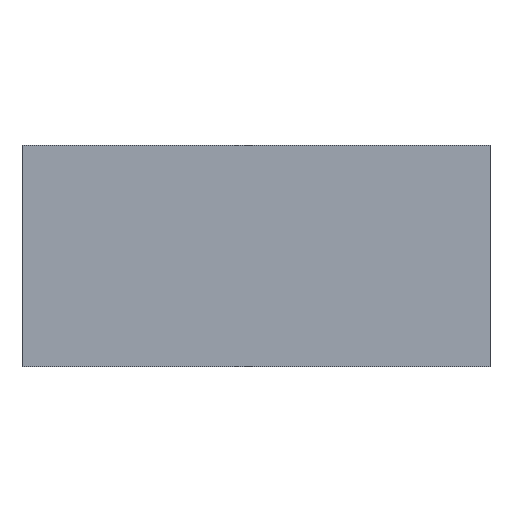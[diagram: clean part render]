
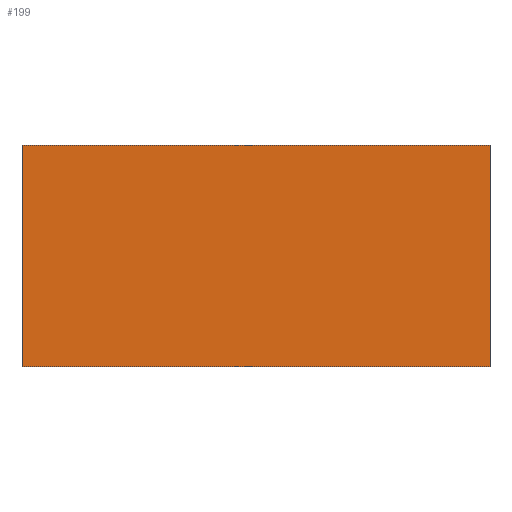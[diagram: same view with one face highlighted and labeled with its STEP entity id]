
A CAD part, top view. The second image highlights one B-rep face of the part: STEP entity #199.
In plain terms, the highlighted planar face has unit normal (0, 0, 1).
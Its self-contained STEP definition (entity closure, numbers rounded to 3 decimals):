
#8 = EDGE_LOOP ( 'NONE', ( #39, #29, #40, #33 ) ) ;
#29 = ORIENTED_EDGE ( 'NONE', *, *, #61, .T. ) ;
#33 = ORIENTED_EDGE ( 'NONE', *, *, #69, .T. ) ;
#39 = ORIENTED_EDGE ( 'NONE', *, *, #47, .T. ) ;
#40 = ORIENTED_EDGE ( 'NONE', *, *, #67, .T. ) ;
#47 = EDGE_CURVE ( 'NONE', #158, #157, #162, .T. ) ;
#61 = EDGE_CURVE ( 'NONE', #157, #154, #170, .T. ) ;
#67 = EDGE_CURVE ( 'NONE', #154, #160, #184, .T. ) ;
#69 = EDGE_CURVE ( 'NONE', #160, #158, #180, .T. ) ;
#70 = AXIS2_PLACEMENT_3D ( 'NONE', #108, #88, #87 ) ;
#87 = DIRECTION ( 'NONE',  ( 0., 1., 0. ) ) ;
#88 = DIRECTION ( 'NONE',  ( 0., 0., -1. ) ) ;
#108 = CARTESIAN_POINT ( 'NONE',  ( -454., 429., 6. ) ) ;
#112 = PLANE ( 'NONE',  #70 ) ;
#119 = CARTESIAN_POINT ( 'NONE',  ( -454., 429., 6. ) ) ;
#120 = CARTESIAN_POINT ( 'NONE',  ( -454., 0., 6. ) ) ;
#124 = CARTESIAN_POINT ( 'NONE',  ( 454., 0., 6. ) ) ;
#125 = DIRECTION ( 'NONE',  ( -1., 0., 0. ) ) ;
#126 = CARTESIAN_POINT ( 'NONE',  ( -454., 429., 6. ) ) ;
#129 = DIRECTION ( 'NONE',  ( 0., 1., 0. ) ) ;
#130 = CARTESIAN_POINT ( 'NONE',  ( 454., 0., 6. ) ) ;
#132 = CARTESIAN_POINT ( 'NONE',  ( 454., 429., 6. ) ) ;
#140 = DIRECTION ( 'NONE',  ( 1., 0., 0. ) ) ;
#144 = CARTESIAN_POINT ( 'NONE',  ( -454., 0., 6. ) ) ;
#146 = DIRECTION ( 'NONE',  ( 0., -1., 0. ) ) ;
#154 = VERTEX_POINT ( 'NONE', #124 ) ;
#155 = CARTESIAN_POINT ( 'NONE',  ( -454., 0., 6. ) ) ;
#157 = VERTEX_POINT ( 'NONE', #120 ) ;
#158 = VERTEX_POINT ( 'NONE', #119 ) ;
#160 = VERTEX_POINT ( 'NONE', #132 ) ;
#162 = LINE ( 'NONE', #155, #196 ) ;
#170 = LINE ( 'NONE', #144, #193 ) ;
#173 = FACE_OUTER_BOUND ( 'NONE', #8, .T. ) ;
#179 = VECTOR ( 'NONE', #125, 1000. ) ;
#180 = LINE ( 'NONE', #126, #179 ) ;
#183 = VECTOR ( 'NONE', #129, 1000. ) ;
#184 = LINE ( 'NONE', #130, #183 ) ;
#193 = VECTOR ( 'NONE', #140, 1000. ) ;
#196 = VECTOR ( 'NONE', #146, 1000. ) ;
#199 = ADVANCED_FACE ( 'NONE', ( #173 ), #112, .F. ) ;
